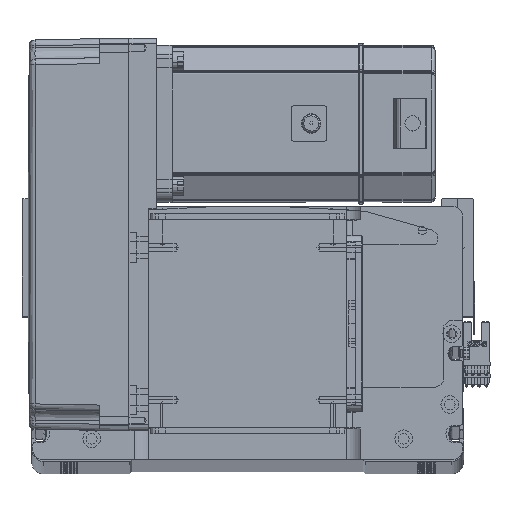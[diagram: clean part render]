
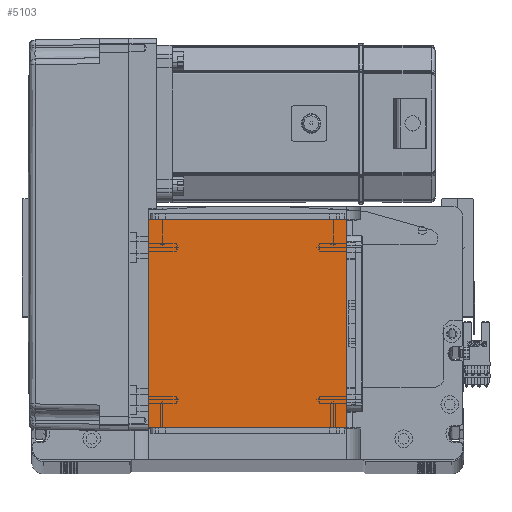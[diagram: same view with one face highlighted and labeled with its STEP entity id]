
A CAD part, top view. The second image highlights one B-rep face of the part: STEP entity #5103.
In plain terms, the highlighted planar face has unit normal (0, 0, 1).
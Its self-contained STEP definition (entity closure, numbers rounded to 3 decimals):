
#793 = DIRECTION ( 'NONE',  ( 0., 0., 1. ) ) ;
#2456 = EDGE_CURVE ( 'NONE', #55245, #35889, #8445, .T. ) ;
#3958 = EDGE_LOOP ( 'NONE', ( #25247, #5338, #52410, #38238 ) ) ;
#4649 = VECTOR ( 'NONE', #31738, 1000. ) ;
#5103 = ADVANCED_FACE ( 'NONE', ( #8355 ), #52776, .T. ) ;
#5338 = ORIENTED_EDGE ( 'NONE', *, *, #2456, .T. ) ;
#6197 = DIRECTION ( 'NONE',  ( -1., 0., 0. ) ) ;
#8355 = FACE_OUTER_BOUND ( 'NONE', #3958, .T. ) ;
#8445 = LINE ( 'NONE', #36913, #36425 ) ;
#13411 = CARTESIAN_POINT ( 'NONE',  ( 50.5, 16., 115. ) ) ;
#13902 = VECTOR ( 'NONE', #6197, 1000. ) ;
#14647 = EDGE_CURVE ( 'NONE', #35889, #29264, #59070, .T. ) ;
#14766 = DIRECTION ( 'NONE',  ( 1., 0., 0. ) ) ;
#15957 = VERTEX_POINT ( 'NONE', #26307 ) ;
#17133 = LINE ( 'NONE', #36090, #4649 ) ;
#18222 = DIRECTION ( 'NONE',  ( 1., 0., 0. ) ) ;
#19002 = AXIS2_PLACEMENT_3D ( 'NONE', #47865, #793, #14766 ) ;
#25022 = DIRECTION ( 'NONE',  ( 0., 1., 0. ) ) ;
#25247 = ORIENTED_EDGE ( 'NONE', *, *, #50358, .T. ) ;
#25488 = CARTESIAN_POINT ( 'NONE',  ( -50.5, 16., 115. ) ) ;
#26092 = CARTESIAN_POINT ( 'NONE',  ( 50.5, 122., 115. ) ) ;
#26307 = CARTESIAN_POINT ( 'NONE',  ( -50.5, 122., 115. ) ) ;
#29264 = VERTEX_POINT ( 'NONE', #26092 ) ;
#31738 = DIRECTION ( 'NONE',  ( 0., -1., 0. ) ) ;
#34192 = VECTOR ( 'NONE', #25022, 1000. ) ;
#35889 = VERTEX_POINT ( 'NONE', #13411 ) ;
#36090 = CARTESIAN_POINT ( 'NONE',  ( -50.5, 122., 115. ) ) ;
#36425 = VECTOR ( 'NONE', #18222, 1000. ) ;
#36913 = CARTESIAN_POINT ( 'NONE',  ( -50.5, 16., 115. ) ) ;
#38238 = ORIENTED_EDGE ( 'NONE', *, *, #58653, .T. ) ;
#47865 = CARTESIAN_POINT ( 'NONE',  ( 0., 0., 115. ) ) ;
#50358 = EDGE_CURVE ( 'NONE', #15957, #55245, #17133, .T. ) ;
#51408 = LINE ( 'NONE', #58067, #13902 ) ;
#52410 = ORIENTED_EDGE ( 'NONE', *, *, #14647, .T. ) ;
#52776 = PLANE ( 'NONE',  #19002 ) ;
#55245 = VERTEX_POINT ( 'NONE', #25488 ) ;
#58067 = CARTESIAN_POINT ( 'NONE',  ( -50.5, 122., 115. ) ) ;
#58182 = CARTESIAN_POINT ( 'NONE',  ( 50.5, 122., 115. ) ) ;
#58653 = EDGE_CURVE ( 'NONE', #29264, #15957, #51408, .T. ) ;
#59070 = LINE ( 'NONE', #58182, #34192 ) ;
